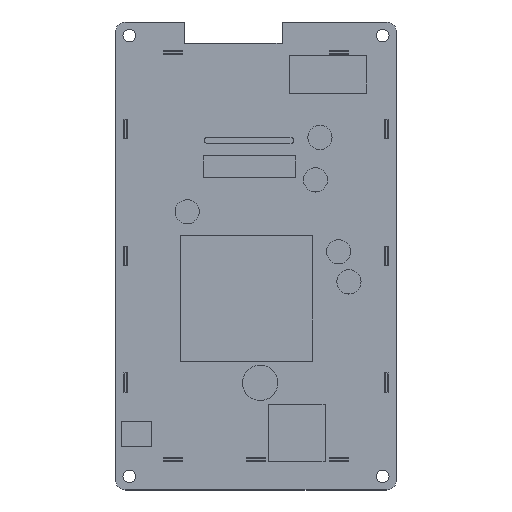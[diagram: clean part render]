
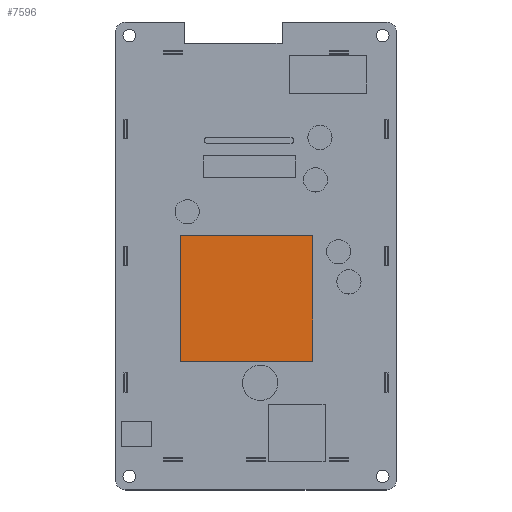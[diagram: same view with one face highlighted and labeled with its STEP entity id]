
A CAD part, top view. The second image highlights one B-rep face of the part: STEP entity #7596.
In plain terms, the highlighted planar face has unit normal (0, 0, 1).
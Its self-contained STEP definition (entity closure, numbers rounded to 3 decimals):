
#2319=DIRECTION('',(-1.,0.,0.));
#2320=VECTOR('',#2319,34.417);
#2321=CARTESIAN_POINT('',(14.783,5.334,5.2));
#2322=LINE('',#2321,#2320);
#2323=DIRECTION('',(0.,1.,0.));
#2324=VECTOR('',#2323,32.766);
#2325=CARTESIAN_POINT('',(14.783,-27.432,5.2));
#2326=LINE('',#2325,#2324);
#2327=DIRECTION('',(1.,0.,0.));
#2328=VECTOR('',#2327,34.417);
#2329=CARTESIAN_POINT('',(-19.634,-27.432,5.2));
#2330=LINE('',#2329,#2328);
#2331=DIRECTION('',(0.,-1.,0.));
#2332=VECTOR('',#2331,32.766);
#2333=CARTESIAN_POINT('',(-19.634,5.334,5.2));
#2334=LINE('',#2333,#2332);
#2769=CARTESIAN_POINT('',(14.783,5.334,5.2));
#2770=CARTESIAN_POINT('',(-19.634,5.334,5.2));
#2771=VERTEX_POINT('',#2769);
#2772=VERTEX_POINT('',#2770);
#2773=CARTESIAN_POINT('',(-19.634,-27.432,5.2));
#2774=VERTEX_POINT('',#2773);
#2775=CARTESIAN_POINT('',(14.783,-27.432,5.2));
#2776=VERTEX_POINT('',#2775);
#7585=CARTESIAN_POINT('',(-36.576,58.42,5.2));
#7586=DIRECTION('',(0.,0.,1.));
#7587=DIRECTION('',(0.,-1.,0.));
#7588=AXIS2_PLACEMENT_3D('',#7585,#7586,#7587);
#7589=PLANE('',#7588);
#7590=ORIENTED_EDGE('',*,*,#7509,.F.);
#7591=ORIENTED_EDGE('',*,*,#7531,.F.);
#7592=ORIENTED_EDGE('',*,*,#7552,.F.);
#7593=ORIENTED_EDGE('',*,*,#7572,.F.);
#7594=EDGE_LOOP('',(#7590,#7591,#7592,#7593));
#7595=FACE_OUTER_BOUND('',#7594,.F.);
#7509=EDGE_CURVE('',#2771,#2772,#2322,.T.);
#7531=EDGE_CURVE('',#2776,#2771,#2326,.T.);
#7552=EDGE_CURVE('',#2774,#2776,#2330,.T.);
#7572=EDGE_CURVE('',#2772,#2774,#2334,.T.);
#7596=ADVANCED_FACE('',(#7595),#7589,.T.);
